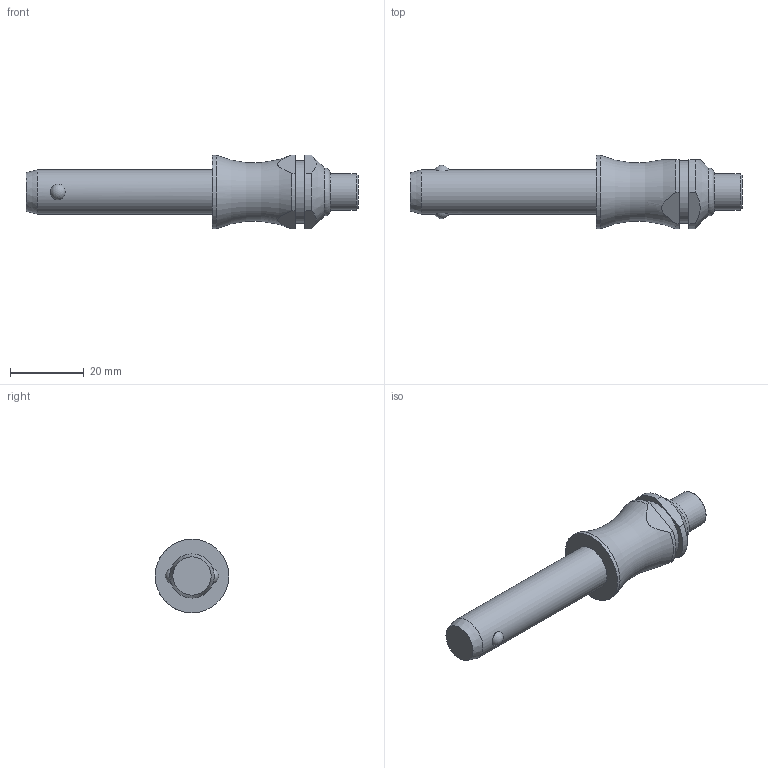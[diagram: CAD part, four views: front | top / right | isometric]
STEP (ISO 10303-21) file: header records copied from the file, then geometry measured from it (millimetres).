
FILE_DESCRIPTION( ( 'STEP AP203' ), '1' );
FILE_NAME( 'C:/Temp/Ganter_Step_05_03_2020/data/3_1/gn113_3/Stainless Steel-Ball lock pin GN 113.3-12-40 (deactivated).stp', '2020-03-12T08:18:43', ( 'License CC BY-ND 4.0' ), ( 'CADENAS' ), ' ', 'PARTsolutions', ' ' );
FILE_SCHEMA( ( 'CONFIG_CONTROL_DESIGN' ) );
Length unit declared in the file: millimetre
Products named in the file (1): _Stainless Steel-Ball lock pin GN 113.3-12-40 (deactivated)
Bounding box: 90.1 x 20 x 20 mm (x, y, z)
Volume: 13661.5 mm3; surface area: 4469.9 mm2
Topology: 1 solids, 1 shells, 28 faces, 60 edges, 39 vertices
Faces by surface type: plane 11, cylinder 10, cone 3, torus 2, sphere 2
Full cylindrical faces by diameter (mm): 10 x1, 12 x1, 17 x1, 20 x1
Entity records: 954 total; most frequent: CARTESIAN_POINT 338, DIRECTION 122, ORIENTED_EDGE 98, AXIS2_PLACEMENT_3D 52, EDGE_CURVE 49, EDGE_LOOP 42, VERTEX_POINT 38, FACE_OUTER_BOUND 34
